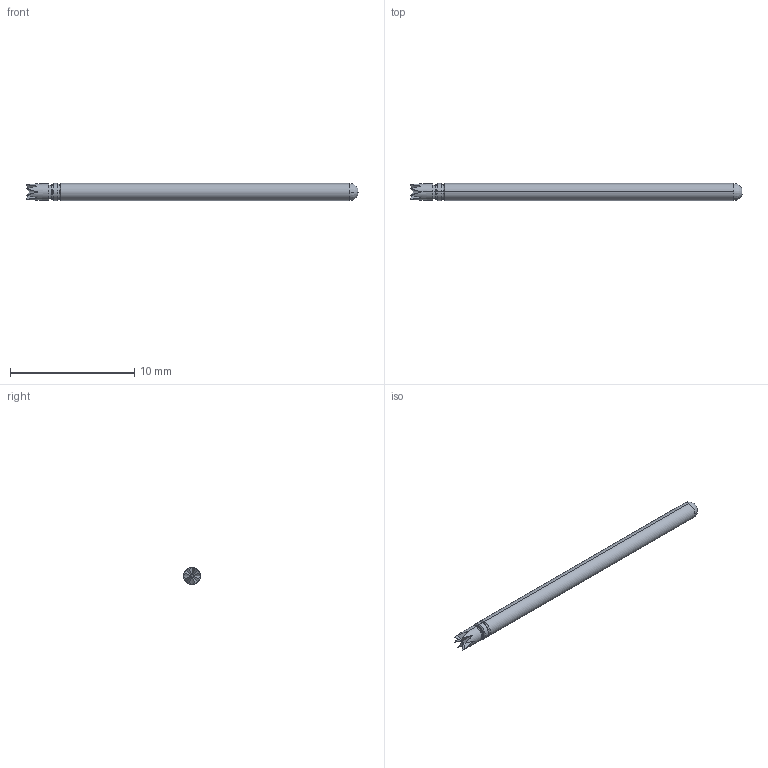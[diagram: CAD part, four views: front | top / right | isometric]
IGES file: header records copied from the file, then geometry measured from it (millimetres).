
Start section: SolidWorks IGES file using analytic representation for surfaces
Global section: file name: Z:\probe solid model mockups\Solidworks models\POGO-25 IGS files\POGO-25Z1 Full.IGS; native system: SolidWorks 2006 by SolidWorks Corporation; preprocessor: SolidWorks 2006 by SolidWorks Corporation; author: tsakatani; date: 071214.094012; units: inch
Bounding box: 26.67 x 1.37 x 1.37 mm (x, y, z)
Surface area: 118.8 mm2 (no closed solid volume)
Topology: 0 solids, 0 shells, 36 faces, 202 edges, 202 vertices
Faces by surface type: bspline 22, revolution 14
